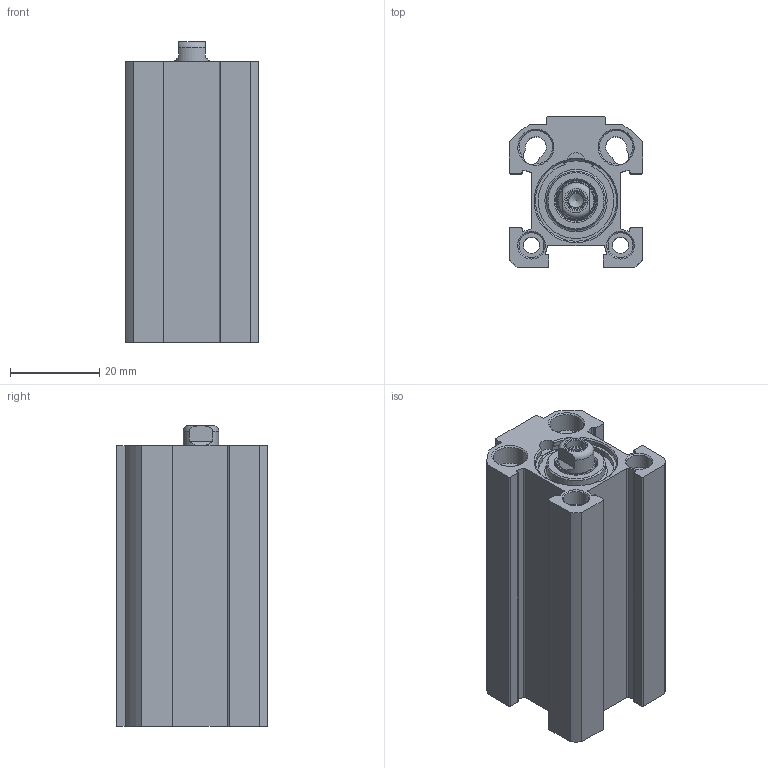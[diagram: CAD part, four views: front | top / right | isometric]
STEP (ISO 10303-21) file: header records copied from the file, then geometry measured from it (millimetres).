
FILE_DESCRIPTION(/* description */ ('Unknown'),/* implementation_level */ '2;1');
FILE_NAME(/* name */ 'FIN 16_25',/* time_stamp */ '2026-05-12T07:42:11+02:00',/* author */ ('Unknown'),/* organization */ ('Unknown'),/* preprocessor_version */ 'ST-DEVELOPER v18.102',/* originating_system */ 'Solid Edge',/* authorisation */ 'Unknown');
FILE_SCHEMA (('AUTOMOTIVE_DESIGN {1 0 10303 214 3 1 1}'));
Length unit declared in the file: millimetre
Products named in the file (5): FIN 16_25; Kolbenstange; Profilrohr; Kit_1; Kit_2
Assembly tree (4 placements, depth 2):
  FIN 16_25
    Kolbenstange
    Profilrohr
    Kit_1
    Kit_2
Bounding box: 30 x 34 x 67.5 mm (x, y, z)
Volume: 39315.9 mm3; surface area: 22959.4 mm2
Topology: 6 solids, 6 shells, 191 faces, 467 edges, 304 vertices
Faces by surface type: plane 78, cylinder 74, cone 30, torus 9
Full cylindrical faces by diameter (mm): 1.3 x2, 3.242 x2, 3.7 x2, 4.134 x4, 4.25 x1, 5.6 x4, 8 x1, 8.42 x1, 9.2 x1, 11.36 x1, 11.5 x1, 13.2 x1, 14 x1, 16 x2, 17.9 x4, 19 x2
Entity records: 6501 total; most frequent: CARTESIAN_POINT 1044, DIRECTION 956, ORIENTED_EDGE 776, AXIS2_PLACEMENT_3D 395, EDGE_CURVE 388, VERTEX_POINT 287, FACE_BOUND 285, EDGE_LOOP 284
